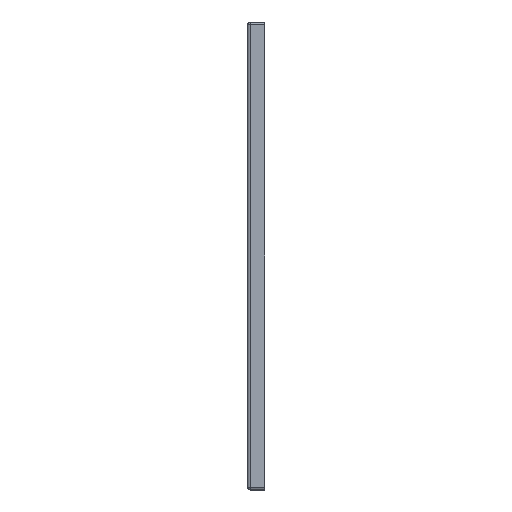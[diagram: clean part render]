
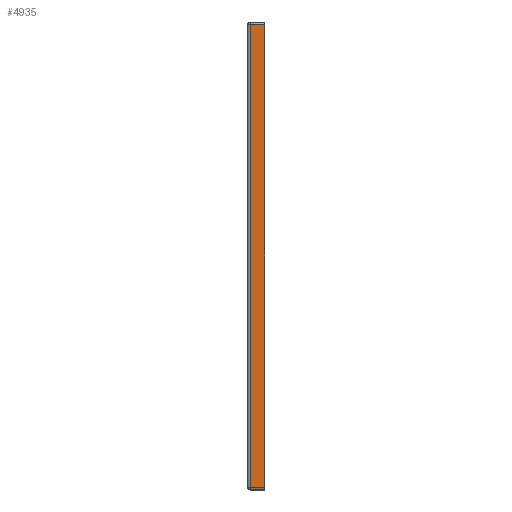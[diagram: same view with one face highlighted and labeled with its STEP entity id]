
A CAD part, left-side view. The second image highlights one B-rep face of the part: STEP entity #4935.
In plain terms, the highlighted planar face has unit normal (-1, 0, 0).
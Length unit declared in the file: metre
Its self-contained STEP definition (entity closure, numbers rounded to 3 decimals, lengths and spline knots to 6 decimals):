
#378=PLANE('',#5481);
#513=LINE('',#7319,#921);
#709=LINE('',#8354,#1117);
#712=LINE('',#8364,#1120);
#720=LINE('',#8390,#1128);
#921=VECTOR('',#5784,1.);
#1117=VECTOR('',#6616,1.);
#1120=VECTOR('',#6629,1.);
#1128=VECTOR('',#6665,1.);
#2542=ORIENTED_EDGE('',*,*,#3222,.F.);
#2543=ORIENTED_EDGE('',*,*,#2812,.F.);
#2544=ORIENTED_EDGE('',*,*,#3228,.F.);
#2545=ORIENTED_EDGE('',*,*,#3242,.F.);
#2812=EDGE_CURVE('',#3501,#3495,#513,.F.);
#3222=EDGE_CURVE('',#3495,#3742,#709,.T.);
#3228=EDGE_CURVE('',#3743,#3501,#712,.F.);
#3242=EDGE_CURVE('',#3742,#3743,#720,.T.);
#3495=VERTEX_POINT('',#7306);
#3501=VERTEX_POINT('',#7318);
#3742=VERTEX_POINT('',#8351);
#3743=VERTEX_POINT('',#8358);
#4165=EDGE_LOOP('',(#2542,#2543,#2544,#2545));
#4497=FACE_BOUND('',#4165,.T.);
#4935=ADVANCED_FACE('',(#4497),#378,.T.);
#5481=AXIS2_PLACEMENT_3D('',#8586,#6907,#6908);
#5784=DIRECTION('',(0.,0.,1.));
#6616=DIRECTION('',(0.,1.,0.));
#6629=DIRECTION('',(0.,1.,0.));
#6665=DIRECTION('',(0.,0.,1.));
#6907=DIRECTION('',(-1.,0.,0.));
#6908=DIRECTION('',(0.,0.,1.));
#7306=CARTESIAN_POINT('',(-0.0395,0.013,-0.04025));
#7318=CARTESIAN_POINT('',(-0.0395,0.013,0.04025));
#7319=CARTESIAN_POINT('',(-0.0395,0.013,0.));
#8351=CARTESIAN_POINT('',(-0.0395,0.0155,-0.04025));
#8354=CARTESIAN_POINT('',(-0.0395,0.013,-0.04025));
#8358=CARTESIAN_POINT('',(-0.0395,0.0155,0.04025));
#8364=CARTESIAN_POINT('',(-0.0395,0.013,0.04025));
#8390=CARTESIAN_POINT('',(-0.0395,0.0155,-0.020375));
#8586=CARTESIAN_POINT('',(-0.0395,0.013,-0.04075));
